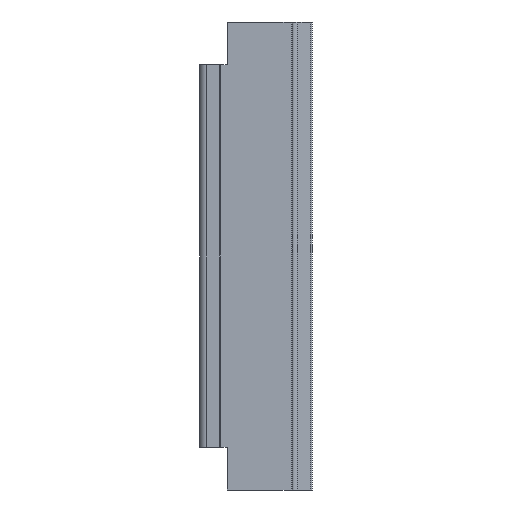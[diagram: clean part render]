
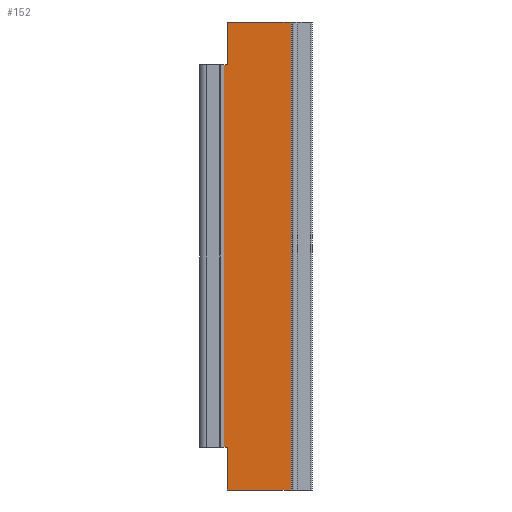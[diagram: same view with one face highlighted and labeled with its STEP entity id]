
A CAD part, left-side view. The second image highlights one B-rep face of the part: STEP entity #152.
In plain terms, the highlighted planar face has unit normal (-1, 0, 0).
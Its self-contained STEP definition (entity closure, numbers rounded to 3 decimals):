
#72 = PLANE ( 'NONE',  #1169 ) ;
#75 = CARTESIAN_POINT ( 'NONE',  ( -2.8, -14.555, 398. ) ) ;
#152 = ADVANCED_FACE ( 'NONE', ( #669 ), #72, .F. ) ;
#163 = VECTOR ( 'NONE', #516, 1000. ) ;
#170 = VECTOR ( 'NONE', #508, 1000. ) ;
#172 = VECTOR ( 'NONE', #500, 1000. ) ;
#183 = VECTOR ( 'NONE', #611, 1000. ) ;
#188 = LINE ( 'NONE', #515, #163 ) ;
#193 = LINE ( 'NONE', #507, #170 ) ;
#201 = LINE ( 'NONE', #608, #183 ) ;
#225 = LINE ( 'NONE', #489, #172 ) ;
#228 = VECTOR ( 'NONE', #483, 1000. ) ;
#239 = LINE ( 'NONE', #482, #228 ) ;
#274 = LINE ( 'NONE', #636, #276 ) ;
#276 = VECTOR ( 'NONE', #404, 1000. ) ;
#283 = LINE ( 'NONE', #415, #290 ) ;
#290 = VECTOR ( 'NONE', #417, 1000. ) ;
#376 = VERTEX_POINT ( 'NONE', #1249 ) ;
#377 = VERTEX_POINT ( 'NONE', #1250 ) ;
#381 = VERTEX_POINT ( 'NONE', #1254 ) ;
#384 = VERTEX_POINT ( 'NONE', #1257 ) ;
#385 = VERTEX_POINT ( 'NONE', #1258 ) ;
#404 = DIRECTION ( 'NONE',  ( 0., -1., 0. ) ) ;
#415 = CARTESIAN_POINT ( 'NONE',  ( -2.8, -14.928, 398. ) ) ;
#417 = DIRECTION ( 'NONE',  ( 0., 0., -1. ) ) ;
#482 = CARTESIAN_POINT ( 'NONE',  ( -2.8, -14.555, 36.5 ) ) ;
#483 = DIRECTION ( 'NONE',  ( 0., -1., 0. ) ) ;
#489 = CARTESIAN_POINT ( 'NONE',  ( -2.8, -72.063, 398. ) ) ;
#500 = DIRECTION ( 'NONE',  ( 0., 0., 1. ) ) ;
#507 = CARTESIAN_POINT ( 'NONE',  ( -2.8, -14.555, 361.5 ) ) ;
#508 = DIRECTION ( 'NONE',  ( 0., 1., 0. ) ) ;
#515 = CARTESIAN_POINT ( 'NONE',  ( -2.8, -17.7, 398. ) ) ;
#516 = DIRECTION ( 'NONE',  ( 0., 0., -1. ) ) ;
#608 = CARTESIAN_POINT ( 'NONE',  ( -2.8, -17.7, 398. ) ) ;
#611 = DIRECTION ( 'NONE',  ( 0., 0., -1. ) ) ;
#636 = CARTESIAN_POINT ( 'NONE',  ( -2.8, -14.555, 398. ) ) ;
#658 = VECTOR ( 'NONE', #1308, 1000. ) ;
#663 = LINE ( 'NONE', #1305, #658 ) ;
#669 = FACE_OUTER_BOUND ( 'NONE', #789, .T. ) ;
#789 = EDGE_LOOP ( 'NONE', ( #852, #853, #854, #860, #859, #843, #845, #844 ) ) ;
#843 = ORIENTED_EDGE ( 'NONE', *, *, #1029, .T. ) ;
#844 = ORIENTED_EDGE ( 'NONE', *, *, #1078, .F. ) ;
#845 = ORIENTED_EDGE ( 'NONE', *, *, #1142, .T. ) ;
#852 = ORIENTED_EDGE ( 'NONE', *, *, #1058, .T. ) ;
#853 = ORIENTED_EDGE ( 'NONE', *, *, #1152, .T. ) ;
#854 = ORIENTED_EDGE ( 'NONE', *, *, #1085, .T. ) ;
#859 = ORIENTED_EDGE ( 'NONE', *, *, #1167, .T. ) ;
#860 = ORIENTED_EDGE ( 'NONE', *, *, #1132, .T. ) ;
#989 = VERTEX_POINT ( 'NONE', #1275 ) ;
#998 = VERTEX_POINT ( 'NONE', #1284 ) ;
#1001 = VERTEX_POINT ( 'NONE', #1287 ) ;
#1029 = EDGE_CURVE ( 'NONE', #384, #998, #663, .T. ) ;
#1058 = EDGE_CURVE ( 'NONE', #989, #385, #201, .T. ) ;
#1078 = EDGE_CURVE ( 'NONE', #989, #376, #274, .T. ) ;
#1085 = EDGE_CURVE ( 'NONE', #1001, #377, #283, .T. ) ;
#1132 = EDGE_CURVE ( 'NONE', #377, #381, #239, .T. ) ;
#1142 = EDGE_CURVE ( 'NONE', #998, #376, #225, .T. ) ;
#1152 = EDGE_CURVE ( 'NONE', #385, #1001, #193, .T. ) ;
#1167 = EDGE_CURVE ( 'NONE', #381, #384, #188, .T. ) ;
#1169 = AXIS2_PLACEMENT_3D ( 'NONE', #75, #1224, #1225 ) ;
#1224 = DIRECTION ( 'NONE',  ( 1., 0., 0. ) ) ;
#1225 = DIRECTION ( 'NONE',  ( 0., 1., 0. ) ) ;
#1249 = CARTESIAN_POINT ( 'NONE',  ( -2.8, -72.063, 398. ) ) ;
#1250 = CARTESIAN_POINT ( 'NONE',  ( -2.8, -14.928, 36.5 ) ) ;
#1254 = CARTESIAN_POINT ( 'NONE',  ( -2.8, -17.7, 36.5 ) ) ;
#1257 = CARTESIAN_POINT ( 'NONE',  ( -2.8, -17.7, 0. ) ) ;
#1258 = CARTESIAN_POINT ( 'NONE',  ( -2.8, -17.7, 361.5 ) ) ;
#1275 = CARTESIAN_POINT ( 'NONE',  ( -2.8, -17.7, 398. ) ) ;
#1284 = CARTESIAN_POINT ( 'NONE',  ( -2.8, -72.063, 0. ) ) ;
#1287 = CARTESIAN_POINT ( 'NONE',  ( -2.8, -14.928, 361.5 ) ) ;
#1305 = CARTESIAN_POINT ( 'NONE',  ( -2.8, -14.555, 0. ) ) ;
#1308 = DIRECTION ( 'NONE',  ( 0., -1., 0. ) ) ;
